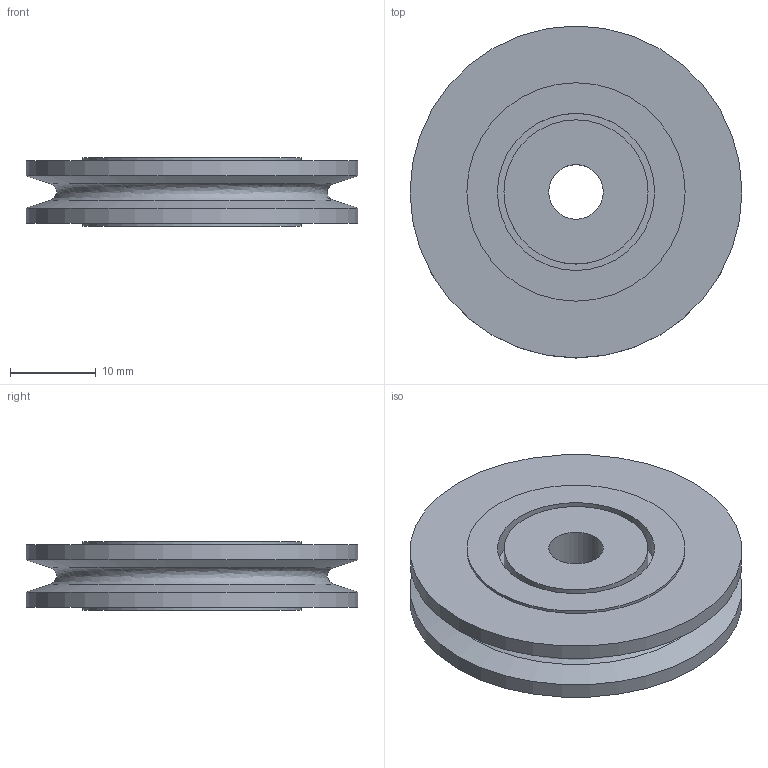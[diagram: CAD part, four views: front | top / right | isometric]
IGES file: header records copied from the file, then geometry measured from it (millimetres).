
Global section: file name: No Iges File Name specified; native system: AutoDesk Inventor R6.0; preprocessor: AutoDesk Inventor Iges Exporter R6.0; author: No Author specified; organization: No Organization specified; date: 20080103.171006; units: inch
Bounding box: 38.61 x 38.61 x 7.92 mm (x, y, z)
Surface area: 5603.4 mm2 (no closed solid volume)
Topology: 0 solids, 0 shells, 20 faces, 52 edges, 40 vertices
Faces by surface type: revolution 11, plane 8, bspline 1
